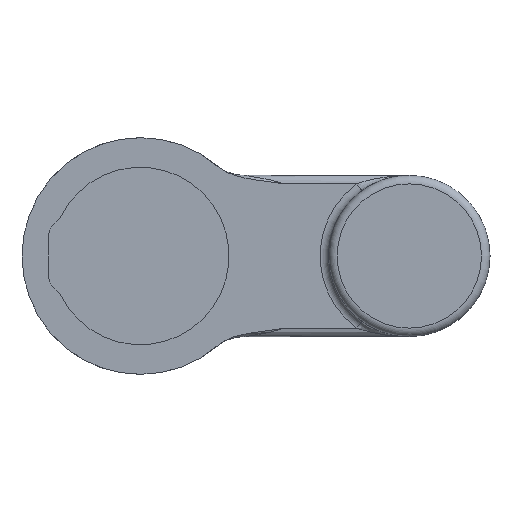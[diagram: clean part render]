
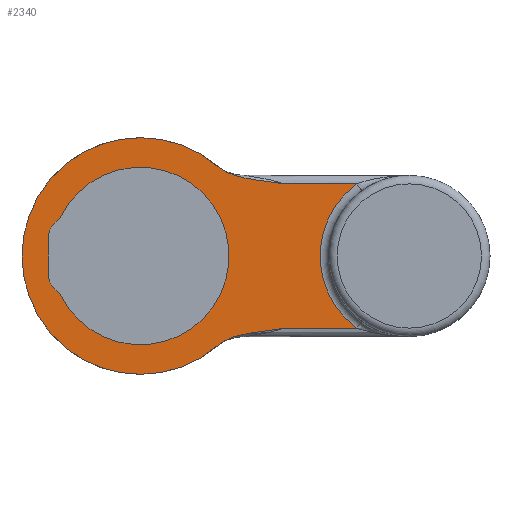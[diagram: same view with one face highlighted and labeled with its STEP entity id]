
A CAD part, front view. The second image highlights one B-rep face of the part: STEP entity #2340.
In plain terms, the highlighted planar face has unit normal (0, -1, 0).
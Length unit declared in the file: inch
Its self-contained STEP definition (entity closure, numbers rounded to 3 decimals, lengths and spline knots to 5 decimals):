
#27=FACE_BOUND('',#551,.T.);
#250=PLANE('',#2574);
#274=B_SPLINE_CURVE_WITH_KNOTS('',3,(#3899,#3900,#3901,#3902,#3903,#3904,
#3905,#3906,#3907,#3908,#3909,#3910,#3911,#3912),.UNSPECIFIED.,.F.,.F.,
(4,2,2,2,2,2,4),(0.,0.41293,0.74845,0.99923,
1.51395,1.69151,1.69242),.UNSPECIFIED.);
#275=B_SPLINE_CURVE_WITH_KNOTS('',3,(#3916,#3917,#3918,#3919,#3920,#3921,
#3922,#3923,#3924,#3925,#3926,#3927,#3928,#3929),.UNSPECIFIED.,.F.,.F.,
(4,2,2,2,2,2,4),(-0.00231,0.,0.44886,1.75006,
2.38405,3.23223,4.27611),.UNSPECIFIED.);
#407=FACE_OUTER_BOUND('',#550,.T.);
#550=EDGE_LOOP('',(#1910,#1911,#1912,#1913,#1914,#1915));
#551=EDGE_LOOP('',(#1916,#1917,#1918,#1919,#1920,#1921));
#642=LINE('',#3480,#774);
#647=LINE('',#3493,#779);
#721=LINE('',#3887,#853);
#723=LINE('',#3897,#855);
#724=LINE('',#3930,#856);
#774=VECTOR('',#2763,0.3937);
#779=VECTOR('',#2776,0.3937);
#853=VECTOR('',#3078,0.3937);
#855=VECTOR('',#3090,0.3937);
#856=VECTOR('',#3093,0.3937);
#906=CIRCLE('',#2455,0.19685);
#968=CIRCLE('',#2573,0.19685);
#969=CIRCLE('',#2575,1.3061);
#970=CIRCLE('',#2576,1.73228);
#971=CIRCLE('',#2577,1.29921);
#1065=VERTEX_POINT('',#3477);
#1066=VERTEX_POINT('',#3479);
#1068=VERTEX_POINT('',#3485);
#1070=VERTEX_POINT('',#3491);
#1177=VERTEX_POINT('',#3884);
#1178=VERTEX_POINT('',#3886);
#1179=VERTEX_POINT('',#3893);
#1180=VERTEX_POINT('',#3894);
#1181=VERTEX_POINT('',#3896);
#1182=VERTEX_POINT('',#3898);
#1183=VERTEX_POINT('',#3913);
#1184=VERTEX_POINT('',#3915);
#1281=EDGE_CURVE('',#1066,#1065,#642,.T.);
#1285=EDGE_CURVE('',#1065,#1068,#906,.T.);
#1288=EDGE_CURVE('',#1068,#1070,#647,.T.);
#1443=EDGE_CURVE('',#1178,#1177,#721,.T.);
#1446=EDGE_CURVE('',#1177,#1066,#968,.T.);
#1447=EDGE_CURVE('',#1179,#1180,#969,.T.);
#1448=EDGE_CURVE('',#1181,#1179,#723,.T.);
#1449=EDGE_CURVE('',#1182,#1181,#274,.T.);
#1450=EDGE_CURVE('',#1182,#1183,#970,.T.);
#1451=EDGE_CURVE('',#1184,#1183,#275,.T.);
#1452=EDGE_CURVE('',#1180,#1184,#724,.T.);
#1453=EDGE_CURVE('',#1070,#1178,#971,.T.);
#1910=ORIENTED_EDGE('',*,*,#1447,.F.);
#1911=ORIENTED_EDGE('',*,*,#1448,.F.);
#1912=ORIENTED_EDGE('',*,*,#1449,.F.);
#1913=ORIENTED_EDGE('',*,*,#1450,.T.);
#1914=ORIENTED_EDGE('',*,*,#1451,.F.);
#1915=ORIENTED_EDGE('',*,*,#1452,.F.);
#1916=ORIENTED_EDGE('',*,*,#1443,.T.);
#1917=ORIENTED_EDGE('',*,*,#1446,.T.);
#1918=ORIENTED_EDGE('',*,*,#1281,.T.);
#1919=ORIENTED_EDGE('',*,*,#1285,.T.);
#1920=ORIENTED_EDGE('',*,*,#1288,.T.);
#1921=ORIENTED_EDGE('',*,*,#1453,.T.);
#2340=ADVANCED_FACE('',(#407,#27),#250,.T.);
#2455=AXIS2_PLACEMENT_3D('',#3487,#2770,#2771);
#2573=AXIS2_PLACEMENT_3D('',#3891,#3084,#3085);
#2574=AXIS2_PLACEMENT_3D('',#3892,#3086,#3087);
#2575=AXIS2_PLACEMENT_3D('',#3895,#3088,#3089);
#2576=AXIS2_PLACEMENT_3D('',#3914,#3091,#3092);
#2577=AXIS2_PLACEMENT_3D('',#3931,#3094,#3095);
#2763=DIRECTION('',(0.,0.,1.));
#2770=DIRECTION('center_axis',(0.,1.,0.));
#2771=DIRECTION('ref_axis',(-1.,0.,0.));
#2776=DIRECTION('',(0.707,0.,0.707));
#3078=DIRECTION('',(-0.707,0.,0.707));
#3084=DIRECTION('center_axis',(0.,1.,0.));
#3085=DIRECTION('ref_axis',(-0.707,0.,-0.707));
#3086=DIRECTION('center_axis',(0.,-1.,0.));
#3087=DIRECTION('ref_axis',(0.,0.,-1.));
#3088=DIRECTION('center_axis',(0.,-1.,0.));
#3089=DIRECTION('ref_axis',(-1.,0.,0.));
#3090=DIRECTION('',(1.,0.,0.));
#3091=DIRECTION('center_axis',(0.,-1.,0.));
#3092=DIRECTION('ref_axis',(0.,0.,
1.));
#3093=DIRECTION('',(-1.,0.,0.));
#3094=DIRECTION('center_axis',(0.,1.,0.));
#3095=DIRECTION('ref_axis',(0.,0.,
1.));
#3477=CARTESIAN_POINT('',(-1.33858,-0.62992,0.31216));
#3479=CARTESIAN_POINT('',(-1.33858,-0.62992,-0.31216));
#3480=CARTESIAN_POINT('',(-1.33858,-0.62992,0.15608));
#3485=CARTESIAN_POINT('',(-1.28093,-0.62992,0.45136));
#3487=CARTESIAN_POINT('Origin',(-1.14173,-0.62992,0.31216));
#3491=CARTESIAN_POINT('',(-1.17237,-0.62992,0.55991));
#3493=CARTESIAN_POINT('',(-0.77686,-0.62992,0.95542));
#3884=CARTESIAN_POINT('',(-1.28093,-0.62992,-0.45136));
#3886=CARTESIAN_POINT('',(-1.17237,-0.62992,-0.55991));
#3887=CARTESIAN_POINT('',(-1.07353,-0.62992,-0.65875));
#3891=CARTESIAN_POINT('Origin',(-1.14173,-0.62992,-0.31216));
#3892=CARTESIAN_POINT('Origin',(0.,-0.62992,
0.));
#3893=CARTESIAN_POINT('',(3.16853,-0.62992,1.0561));
#3894=CARTESIAN_POINT('',(3.16853,-0.62992,-1.0561));
#3895=CARTESIAN_POINT('Origin',(3.93701,-0.62992,0.));
#3896=CARTESIAN_POINT('',(2.11297,-0.62992,1.0561));
#3897=CARTESIAN_POINT('',(1.9685,-0.62992,1.0561));
#3898=CARTESIAN_POINT('',(1.12135,-0.6299,1.32039));
#3899=CARTESIAN_POINT('Ctrl Pts',(1.12136,-0.62992,1.32038));
#3900=CARTESIAN_POINT('Ctrl Pts',(1.16267,-0.62992,1.28531));
#3901=CARTESIAN_POINT('Ctrl Pts',(1.21602,-0.62992,1.24825));
#3902=CARTESIAN_POINT('Ctrl Pts',(1.34581,-0.62992,1.18893));
#3903=CARTESIAN_POINT('Ctrl Pts',(1.40608,-0.62992,1.16988));
#3904=CARTESIAN_POINT('Ctrl Pts',(1.51477,-0.62992,1.14357));
#3905=CARTESIAN_POINT('Ctrl Pts',(1.56344,-0.62992,1.13433));
#3906=CARTESIAN_POINT('Ctrl Pts',(1.70528,-0.62992,1.11044));
#3907=CARTESIAN_POINT('Ctrl Pts',(1.80777,-0.62992,1.09752));
#3908=CARTESIAN_POINT('Ctrl Pts',(1.96791,-0.62992,1.07648));
#3909=CARTESIAN_POINT('Ctrl Pts',(2.05384,-0.62992,1.06511));
#3910=CARTESIAN_POINT('Ctrl Pts',(2.11237,-0.62992,1.05619));
#3911=CARTESIAN_POINT('Ctrl Pts',(2.11267,-0.62992,1.05615));
#3912=CARTESIAN_POINT('Ctrl Pts',(2.11297,-0.62992,1.0561));
#3913=CARTESIAN_POINT('',(1.12135,-0.6299,-1.32039));
#3914=CARTESIAN_POINT('Origin',(0.,-0.62992,0.));
#3915=CARTESIAN_POINT('',(2.11297,-0.62992,-1.0561));
#3916=CARTESIAN_POINT('Ctrl Pts',(2.11297,-0.62992,-1.0561));
#3917=CARTESIAN_POINT('Ctrl Pts',(2.11267,-0.62992,-1.05615));
#3918=CARTESIAN_POINT('Ctrl Pts',(2.11237,-0.62992,-1.05619));
#3919=CARTESIAN_POINT('Ctrl Pts',(2.05384,-0.62992,-1.06511));
#3920=CARTESIAN_POINT('Ctrl Pts',(1.96791,-0.62992,-1.07648));
#3921=CARTESIAN_POINT('Ctrl Pts',(1.80777,-0.62992,-1.09752));
#3922=CARTESIAN_POINT('Ctrl Pts',(1.70528,-0.62992,-1.11044));
#3923=CARTESIAN_POINT('Ctrl Pts',(1.56344,-0.62992,-1.13433));
#3924=CARTESIAN_POINT('Ctrl Pts',(1.51477,-0.62992,-1.14357));
#3925=CARTESIAN_POINT('Ctrl Pts',(1.40608,-0.62992,-1.16988));
#3926=CARTESIAN_POINT('Ctrl Pts',(1.34581,-0.62992,-1.18893));
#3927=CARTESIAN_POINT('Ctrl Pts',(1.21602,-0.62992,-1.24825));
#3928=CARTESIAN_POINT('Ctrl Pts',(1.16267,-0.62992,-1.28531));
#3929=CARTESIAN_POINT('Ctrl Pts',(1.12136,-0.62992,-1.32038));
#3930=CARTESIAN_POINT('',(0.,-0.62992,-1.0561));
#3931=CARTESIAN_POINT('Origin',(0.,-0.62992,0.));
